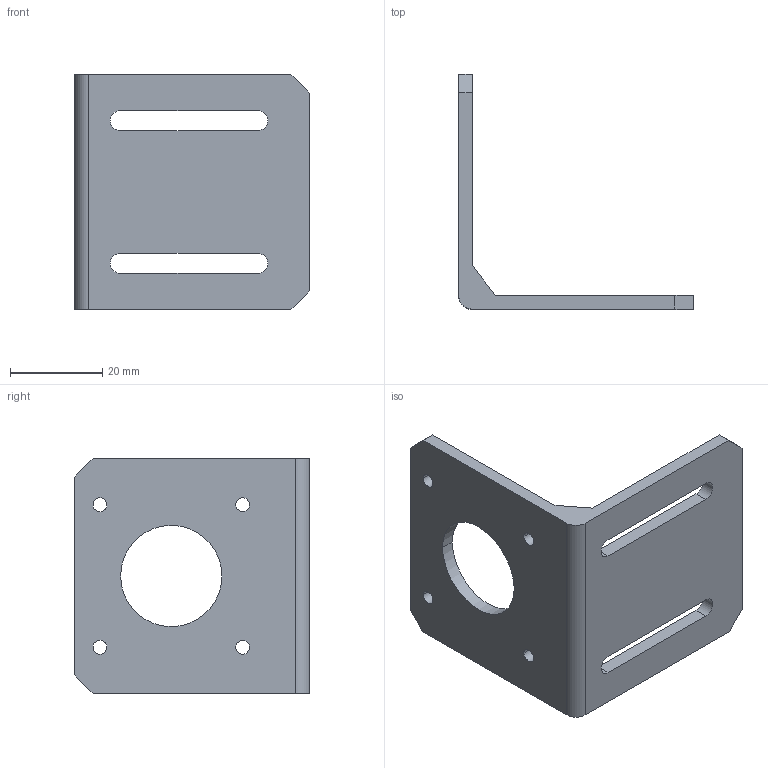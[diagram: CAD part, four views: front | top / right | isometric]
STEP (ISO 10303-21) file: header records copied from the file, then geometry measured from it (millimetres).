
FILE_DESCRIPTION (( 'STEP AP203' ), '1' );
FILE_NAME ('42ZJ-SH.STEP', '2025-01-17T03:00:18', ( '' ), ( '' ), 'SwSTEP 2.0', 'SolidWorks 2021', '' );
FILE_SCHEMA (( 'CONFIG_CONTROL_DESIGN' ));
Length unit declared in the file: millimetre
Products named in the file (1): 42ZJ-SH
Bounding box: 51 x 51 x 51 mm (x, y, z)
Volume: 12950.5 mm3; surface area: 10236.1 mm2
Topology: 1 solids, 1 shells, 38 faces, 108 edges, 72 vertices
Faces by surface type: plane 20, cylinder 18
Entity records: 1353 total; most frequent: DIRECTION 222, CARTESIAN_POINT 219, ORIENTED_EDGE 216, EDGE_CURVE 108, AXIS2_PLACEMENT_3D 75, LINE 72, VECTOR 72, VERTEX_POINT 72
